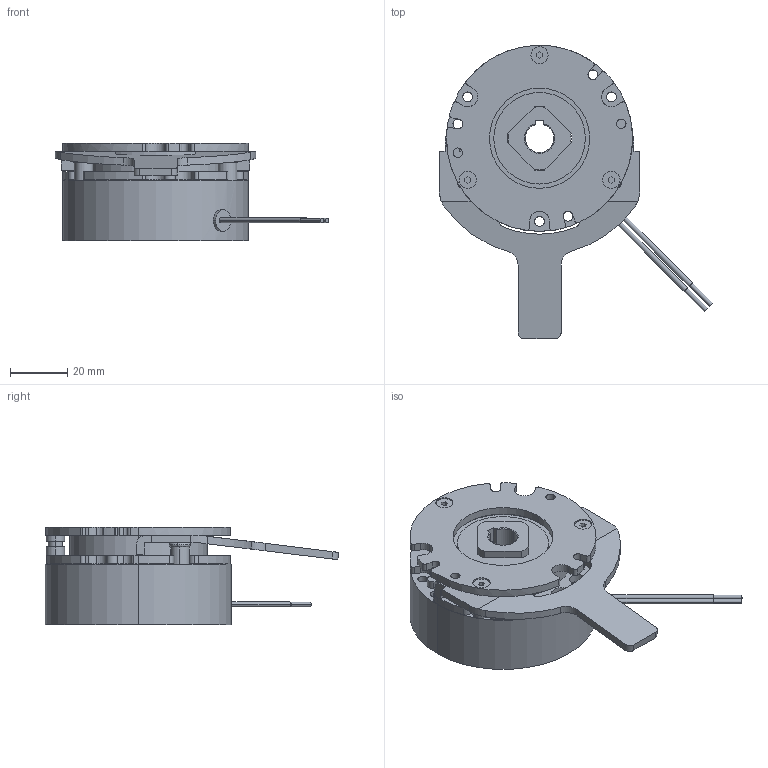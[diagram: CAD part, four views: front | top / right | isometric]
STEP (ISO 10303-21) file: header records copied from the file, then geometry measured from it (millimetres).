
FILE_DESCRIPTION (( 'STEP AP214' ), '1' );
FILE_NAME ('BXW-04-12L.STEP', '2018-10-10T08:18:44', ( 'MIKI' ), ( '' ), 'SwSTEP 2.0', 'SolidWorks 2012', '' );
FILE_SCHEMA (( 'AUTOMOTIVE_DESIGN' ));
Length unit declared in the file: millimetre
Products named in the file (1): BXW-04-12L
Bounding box: 95.48 x 102.5 x 33.9 mm (x, y, z)
Volume: 90380.8 mm3; surface area: 32018.5 mm2
Topology: 3 solids, 3 shells, 357 faces, 958 edges, 620 vertices
Faces by surface type: cylinder 185, plane 146, cone 18, bspline 8
Entity records: 15595 total; most frequent: CARTESIAN_POINT 2384, DIRECTION 2004, ORIENTED_EDGE 1908, EDGE_CURVE 954, AXIS2_PLACEMENT_3D 740, VERTEX_POINT 620, LINE 524, VECTOR 524
